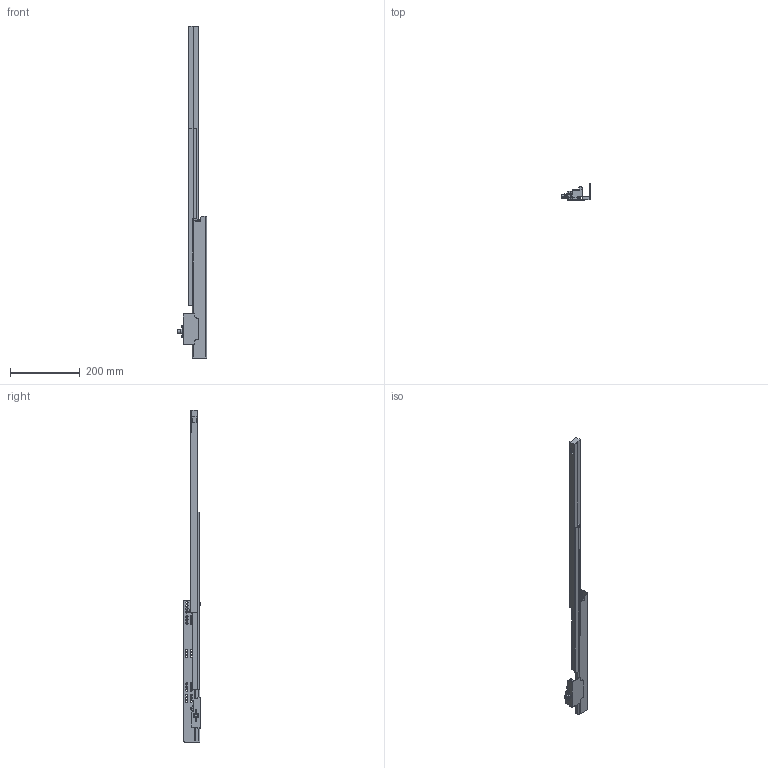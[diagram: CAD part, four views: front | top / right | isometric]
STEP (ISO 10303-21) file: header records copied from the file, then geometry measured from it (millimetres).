
FILE_DESCRIPTION (( 'STEP AP203' ), '1' );
FILE_NAME ('TF10600H-R-DTC3D-open.STEP', '2021-06-05T03:24:44', ( 'df' ), ( 'Microsoft' ), 'SwSTEP 2.0', 'SolidWorks 2018', '' );
FILE_SCHEMA (( 'CONFIG_CONTROL_DESIGN' ));
Length unit declared in the file: millimetre
Products named in the file (1): TF10600H-R-DTC3D-open
Bounding box: 83.3 x 48 x 949.3 mm (x, y, z)
Volume: 576231.8 mm3; surface area: 161671.4 mm2
Topology: 1 solids, 4 shells, 523 faces, 1350 edges, 834 vertices
Faces by surface type: cylinder 251, plane 164, bspline 102, sphere 4, torus 2
Entity records: 18162 total; most frequent: CARTESIAN_POINT 5570, ORIENTED_EDGE 2678, DIRECTION 2593, EDGE_CURVE 1339, AXIS2_PLACEMENT_3D 967, VERTEX_POINT 834, LINE 659, VECTOR 659
